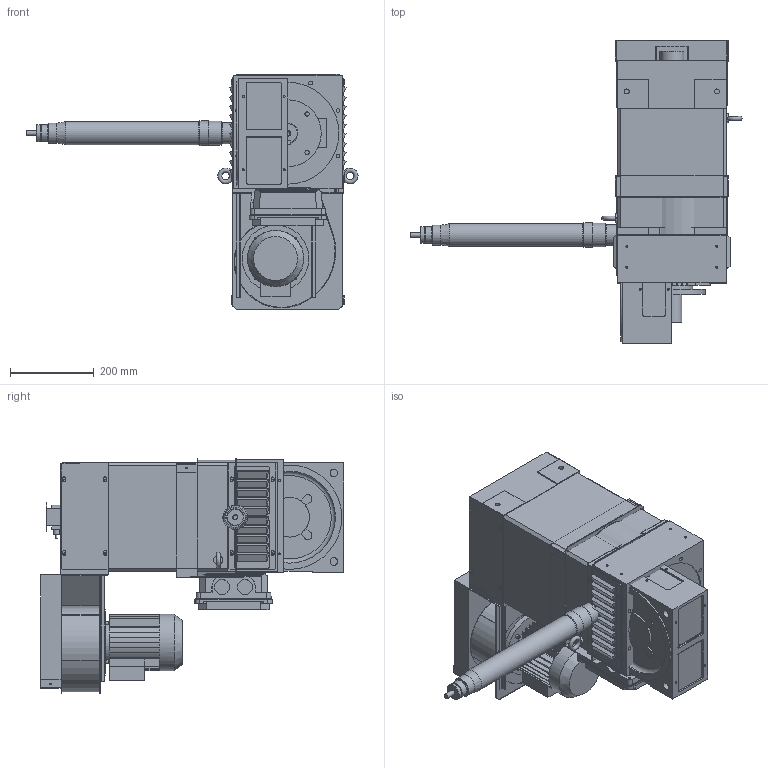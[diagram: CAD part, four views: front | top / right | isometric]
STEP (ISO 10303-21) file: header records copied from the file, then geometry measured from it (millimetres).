
FILE_DESCRIPTION( ( 'STEP AP203' ), '1' );
FILE_NAME( 'C:/Documents and Settings/Jordi Villen/Mis documentos/PLANOLS/Planols vigents/MAC QI-QE/Mac132/Cj. Motor simplificat/Motor QI/MAC-QI 132 P/MAC-QI 132-P B5 ed09.stp', '2007-05-30T10:15:04', ( ' ' ), ( ' ' ), 'XStep 1.0', ' ', ' ' );
FILE_SCHEMA( ( 'CONFIG_CONTROL_DESIGN) ( )' ) );
Length unit declared in the file: metre
Products named in the file (17): Assem1; 1; 2; 3; 4; 5; 6; 7; 8; 9; 10; 11; 12; 13; 14; 15; 16
Bounding box: 794.98 x 727 x 564.5 mm (x, y, z)
Volume: 92807384 mm3; surface area: 4889505.3 mm2
Topology: 35 solids, 37 shells, 2149 faces, 5360 edges, 3563 vertices
Faces by surface type: plane 1346, cylinder 686, torus 65, cone 44, sphere 8
Full cylindrical faces by diameter (mm): 2.459 x4, 3.242 x14, 3.803 x2, 4 x4, 4.917 x56, 5 x8, 5.5 x4, 6.5 x4, 6.647 x12, 7 x16, 8 x15, 9 x12, 10 x16, 10.106 x2, 11 x8, 12 x16, 15.245 x2, 18 x8, 20 x4, 22 x3, 30 x2, 36.752 x4, 37.5 x2, 39.6 x2, 40 x4, 47 x2, 47.6 x2, 48 x4, 49.6 x2, 49.8 x2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
Entity records: 30197 total; most frequent: CARTESIAN_POINT 5232, DIRECTION 5178, ORIENTED_EDGE 4602, EDGE_CURVE 2301, AXIS2_PLACEMENT_3D 1857, VERTEX_POINT 1620, LINE 1464, VECTOR 1464
